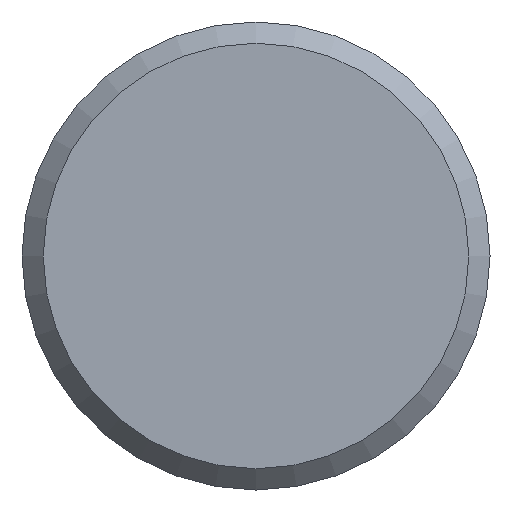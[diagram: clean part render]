
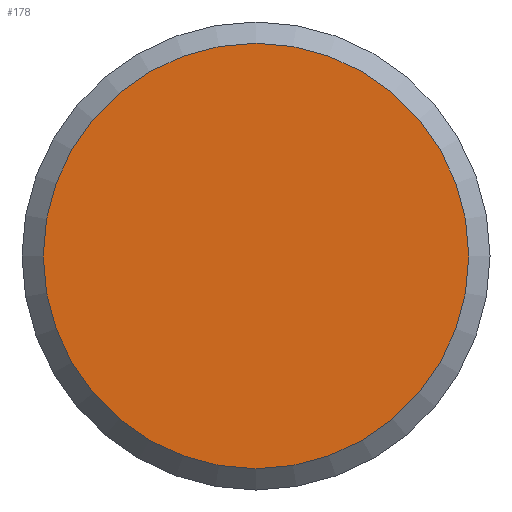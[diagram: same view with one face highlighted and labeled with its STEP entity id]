
A CAD part, front view. The second image highlights one B-rep face of the part: STEP entity #178.
In plain terms, the highlighted planar face has unit normal (0, -1, 0).
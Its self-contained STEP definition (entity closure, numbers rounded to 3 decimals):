
#18=PLANE('',#217);
#28=FACE_OUTER_BOUND('',#41,.T.);
#41=EDGE_LOOP('',(#133));
#73=CIRCLE('',#213,10.);
#87=VERTEX_POINT('',#306);
#102=EDGE_CURVE('',#87,#87,#73,.T.);
#133=ORIENTED_EDGE('',*,*,#102,.F.);
#178=ADVANCED_FACE('',(#28),#18,.F.);
#213=AXIS2_PLACEMENT_3D('',#307,#243,#244);
#217=AXIS2_PLACEMENT_3D('',#315,#253,#254);
#243=DIRECTION('center_axis',(0.,1.,0.));
#244=DIRECTION('ref_axis',(1.,0.,0.));
#253=DIRECTION('center_axis',(0.,1.,0.));
#254=DIRECTION('ref_axis',(0.,0.,1.));
#306=CARTESIAN_POINT('',(-10.,0.,0.));
#307=CARTESIAN_POINT('Origin',(0.,0.,0.));
#315=CARTESIAN_POINT('Origin',(0.,0.,0.));
